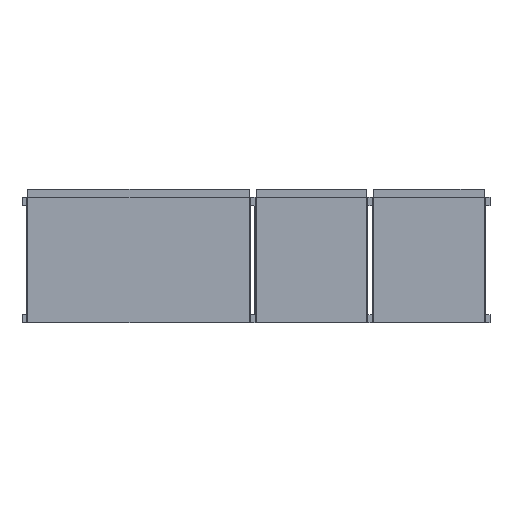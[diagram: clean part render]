
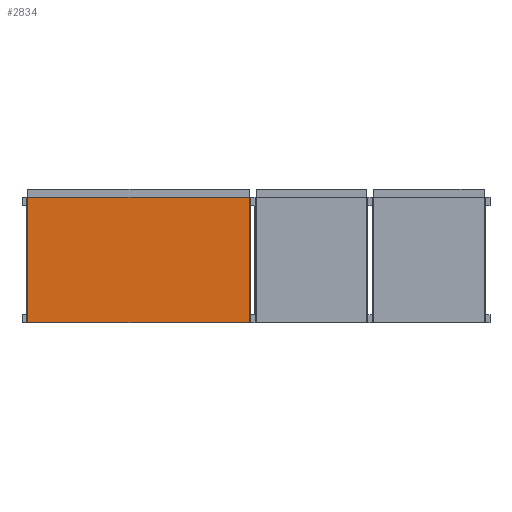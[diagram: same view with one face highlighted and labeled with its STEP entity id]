
A CAD part, front view. The second image highlights one B-rep face of the part: STEP entity #2834.
In plain terms, the highlighted planar face has unit normal (0, -1, 0).
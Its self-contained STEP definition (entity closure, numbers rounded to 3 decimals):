
#562=FACE_OUTER_BOUND('',#743,.T.);
#743=EDGE_LOOP('',(#2269,#2270,#2271,#2272));
#966=LINE('',#4528,#1230);
#975=LINE('',#4545,#1239);
#982=LINE('',#4562,#1246);
#988=LINE('',#4571,#1252);
#1230=VECTOR('',#3594,680.);
#1239=VECTOR('',#3607,385.);
#1246=VECTOR('',#3624,680.);
#1252=VECTOR('',#3634,385.);
#1481=VERTEX_POINT('',#4525);
#1482=VERTEX_POINT('',#4527);
#1488=VERTEX_POINT('',#4544);
#1493=VERTEX_POINT('',#4561);
#1750=EDGE_CURVE('',#1482,#1481,#966,.T.);
#1759=EDGE_CURVE('',#1488,#1482,#975,.T.);
#1768=EDGE_CURVE('',#1493,#1488,#982,.T.);
#1774=EDGE_CURVE('',#1481,#1493,#988,.T.);
#2269=ORIENTED_EDGE('',*,*,#1759,.T.);
#2270=ORIENTED_EDGE('',*,*,#1750,.T.);
#2271=ORIENTED_EDGE('',*,*,#1774,.T.);
#2272=ORIENTED_EDGE('',*,*,#1768,.T.);
#2678=PLANE('',#3076);
#2834=ADVANCED_FACE('',(#562),#2678,.F.);
#3076=AXIS2_PLACEMENT_3D('',#4591,#3657,#3658);
#3594=DIRECTION('',(0.,0.,-1.));
#3607=DIRECTION('',(-1.,0.,0.));
#3624=DIRECTION('',(0.,0.,1.));
#3634=DIRECTION('',(1.,0.,0.));
#3657=DIRECTION('center_axis',(0.,1.,0.));
#3658=DIRECTION('ref_axis',(0.,0.,1.));
#4525=CARTESIAN_POINT('',(-192.5,0.,-340.));
#4527=CARTESIAN_POINT('',(-192.5,0.,340.));
#4528=CARTESIAN_POINT('',(-192.5,0.,340.));
#4544=CARTESIAN_POINT('',(192.5,0.,340.));
#4545=CARTESIAN_POINT('',(192.5,0.,340.));
#4561=CARTESIAN_POINT('',(192.5,0.,-340.));
#4562=CARTESIAN_POINT('',(192.5,0.,-340.));
#4571=CARTESIAN_POINT('',(-192.5,0.,-340.));
#4591=CARTESIAN_POINT('Origin',(0.,0.,0.));
